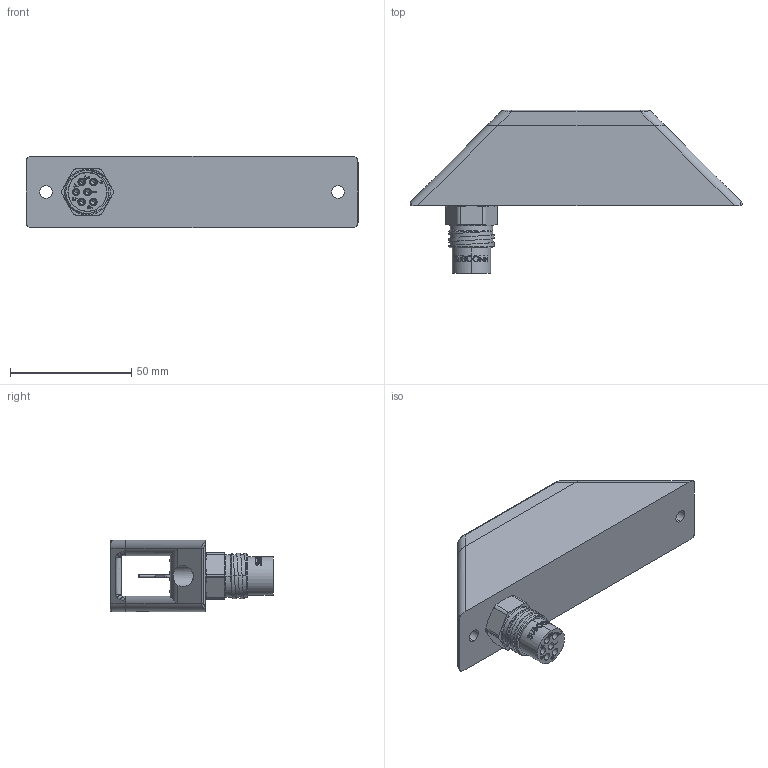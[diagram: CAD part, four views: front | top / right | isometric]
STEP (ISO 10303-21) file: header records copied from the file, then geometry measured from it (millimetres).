
FILE_DESCRIPTION (( 'STEP AP214' ), '1' );
FILE_NAME ('10070 Model 511-1 MCBH6F RevA NO DETAILS.STEP', '2025-08-17T01:28:50', ( '' ), ( '' ), 'SwSTEP 2.0', 'SolidWorks 2023', '' );
FILE_SCHEMA (( 'AUTOMOTIVE_DESIGN' ));
Length unit declared in the file: inch
Products named in the file (1): 10070 Model 511-1 MCBH6F RevA NO DETAILS
Bounding box: 137.16 x 67.46 x 29.44 mm (x, y, z)
Volume: 89873.1 mm3; surface area: 32045.6 mm2
Topology: 13 solids, 19 shells, 1336 faces, 3602 edges, 2304 vertices
Faces by surface type: cylinder 461, plane 368, torus 232, bspline 137, cone 136, sphere 2
Entity records: 80804 total; most frequent: CARTESIAN_POINT 31645, ORIENTED_EDGE 7132, DIRECTION 6127, EDGE_CURVE 3566, AXIS2_PLACEMENT_3D 2385, VERTEX_POINT 2302, EDGE_LOOP 1456, LINE 1357
